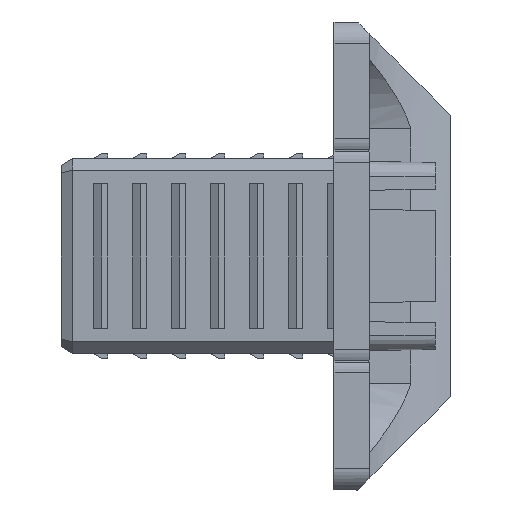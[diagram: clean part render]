
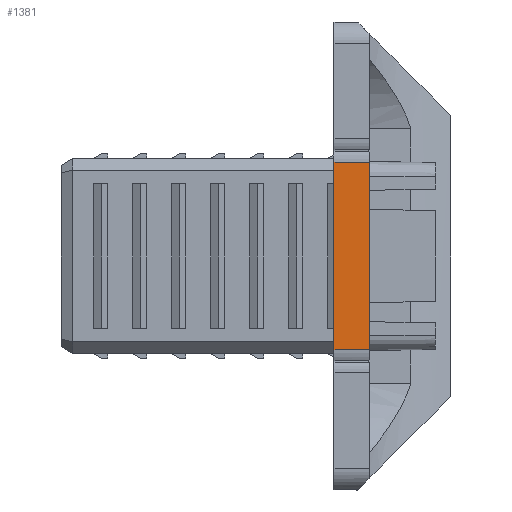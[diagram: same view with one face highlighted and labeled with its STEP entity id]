
A CAD part, left-side view. The second image highlights one B-rep face of the part: STEP entity #1381.
In plain terms, the highlighted planar face has unit normal (-1, 0, 0).
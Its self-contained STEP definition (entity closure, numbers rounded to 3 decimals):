
#749 = EDGE_CURVE ( 'NONE', #7597, #7386, #2856, .T. ) ;
#1034 = EDGE_CURVE ( 'NONE', #5029, #7386, #7132, .T. ) ;
#1381 = ADVANCED_FACE ( 'NONE', ( #5526 ), #4309, .F. ) ;
#1444 = VECTOR ( 'NONE', #1467, 1000. ) ;
#1467 = DIRECTION ( 'NONE',  ( 0., 1., 0. ) ) ;
#1522 = CARTESIAN_POINT ( 'NONE',  ( -15., -2.35, 15. ) ) ;
#1577 = DIRECTION ( 'NONE',  ( 0., 0., -1. ) ) ;
#1624 = AXIS2_PLACEMENT_3D ( 'NONE', #1522, #2915, #1577 ) ;
#2120 = ORIENTED_EDGE ( 'NONE', *, *, #1034, .T. ) ;
#2144 = CARTESIAN_POINT ( 'NONE',  ( -15., 2.35, -12. ) ) ;
#2449 = VECTOR ( 'NONE', #3442, 1000. ) ;
#2648 = ORIENTED_EDGE ( 'NONE', *, *, #3529, .T. ) ;
#2856 = LINE ( 'NONE', #7086, #1444 ) ;
#2915 = DIRECTION ( 'NONE',  ( 1., 0., 0. ) ) ;
#3442 = DIRECTION ( 'NONE',  ( 0., 0., 1. ) ) ;
#3529 = EDGE_CURVE ( 'NONE', #3705, #5029, #6994, .T. ) ;
#3661 = VECTOR ( 'NONE', #3912, 1000. ) ;
#3705 = VERTEX_POINT ( 'NONE', #4446 ) ;
#3912 = DIRECTION ( 'NONE',  ( 0., 1., 0. ) ) ;
#3968 = CARTESIAN_POINT ( 'NONE',  ( -15., 2.35, 12. ) ) ;
#4185 = CARTESIAN_POINT ( 'NONE',  ( -15., -2.15, -30. ) ) ;
#4309 = PLANE ( 'NONE',  #1624 ) ;
#4446 = CARTESIAN_POINT ( 'NONE',  ( -15., -2.15, 12. ) ) ;
#4684 = DIRECTION ( 'NONE',  ( 0., 0., -1. ) ) ;
#5029 = VERTEX_POINT ( 'NONE', #3968 ) ;
#5182 = ORIENTED_EDGE ( 'NONE', *, *, #8890, .T. ) ;
#5329 = CARTESIAN_POINT ( 'NONE',  ( -15., -12.65, 12. ) ) ;
#5526 = FACE_OUTER_BOUND ( 'NONE', #8360, .T. ) ;
#5969 = VECTOR ( 'NONE', #4684, 1000. ) ;
#6441 = LINE ( 'NONE', #4185, #2449 ) ;
#6994 = LINE ( 'NONE', #5329, #3661 ) ;
#7086 = CARTESIAN_POINT ( 'NONE',  ( -15., -12.65, -12. ) ) ;
#7132 = LINE ( 'NONE', #7380, #5969 ) ;
#7244 = CARTESIAN_POINT ( 'NONE',  ( -15., -2.15, -12. ) ) ;
#7378 = ORIENTED_EDGE ( 'NONE', *, *, #749, .F. ) ;
#7380 = CARTESIAN_POINT ( 'NONE',  ( -15., 2.35, 15. ) ) ;
#7386 = VERTEX_POINT ( 'NONE', #2144 ) ;
#7597 = VERTEX_POINT ( 'NONE', #7244 ) ;
#8360 = EDGE_LOOP ( 'NONE', ( #7378, #5182, #2648, #2120 ) ) ;
#8890 = EDGE_CURVE ( 'NONE', #7597, #3705, #6441, .T. ) ;
